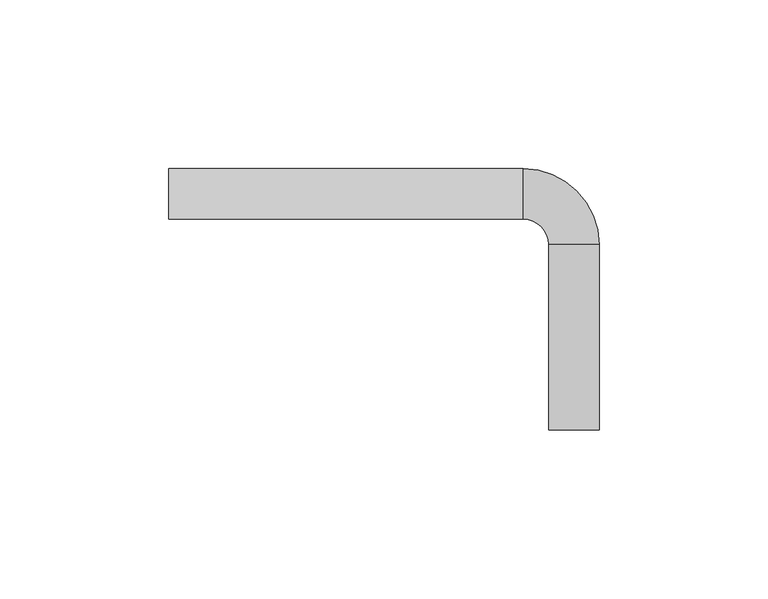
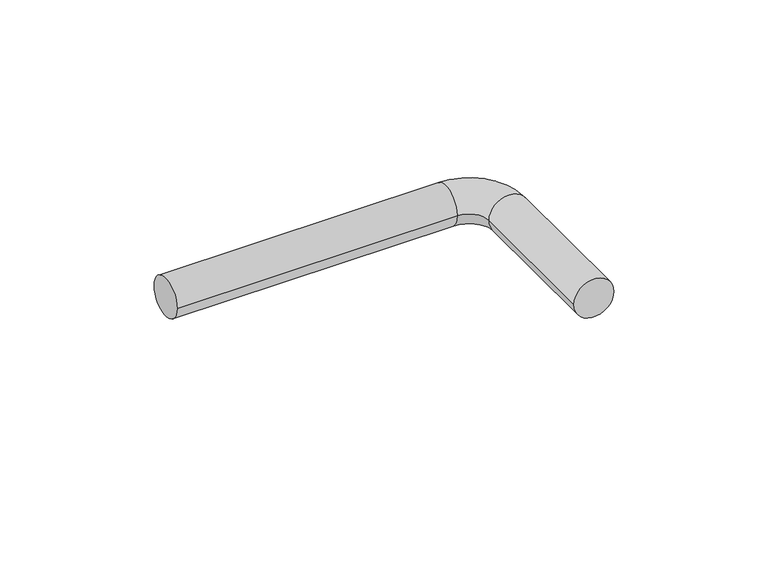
"""IFC4 building model written with IfcOpenShell, lengths in millimetres: pipe fitting geometry, KAN-therm Inox łuk 90 : KAN-therm Inox łuk 90."""

from ifc_helpers import new_model, si_unit, point, frame, origin, place, context, project, spatial, circle_curve, ellipse_curve, trimmed, source, transform, mapped, element, save
from ifc_brep_helpers import plane_surface, cylinder_surface, revolved_surface, advanced_brep


def pipe_fitting_b5278f3b(model_context):
    return source(origin(), model_context, "Body", "AdvancedBrep", [
        advanced_brep(
        [(127.5, -70.0, 0.0), (112.5, -70.0, 0.0), (127.5, -15.0, 0.0), (112.5, -15.0, 0.0), (105.0, -7.5, 0.0), (105.0, 7.5, 0.0), (0.0, 7.5, 0.0), (0.0, -7.5, 0.0)],
        [
            (0, 1, circle_curve(frame((120.0, -70.0, 0.0), z_axis=(0.0, -1.0, 0.0), x_axis=(-1.0, 0.0, 0.0)), 7.5)),
            (1, 0, circle_curve(frame((120.0, -70.0, 0.0), z_axis=(0.0, -1.0, 0.0), x_axis=(-1.0, 0.0, 0.0)), 7.5)),
            (0, 2),
            (2, 3, circle_curve(frame((120.0, -15.0, 0.0), z_axis=(0.0, -1.0, 0.0), x_axis=(-1.0, 0.0, 0.0)), 7.5)),
            (3, 1),
            (3, 2, circle_curve(frame((120.0, -15.0, 0.0), z_axis=(0.0, -1.0, 0.0), x_axis=(-1.0, 0.0, 0.0)), 7.5)),
            (4, 3, circle_curve(frame((105.0, -15.0, 0.0), z_axis=(0.0, 0.0, -1.0), x_axis=(1.0, 0.0, 0.0)), 7.5)),
            (2, 5, circle_curve(frame((105.0, -15.0, 0.0), z_axis=(0.0, 0.0, 1.0), x_axis=(1.0, 0.0, 0.0)), 22.5)),
            (5, 4, circle_curve(frame((105.0, 0.0, 0.0), z_axis=(1.0, 0.0, 0.0), x_axis=(0.0, -1.0, 0.0)), 7.5)),
            (4, 5, circle_curve(frame((105.0, 0.0, 0.0), z_axis=(1.0, 0.0, 0.0), x_axis=(0.0, -1.0, 0.0)), 7.5)),
            (6, 7, circle_curve(frame((0.0, 0.0, 0.0), z_axis=(-1.0, 0.0, 0.0), x_axis=(0.0, -1.0, 0.0)), 7.5)),
            (7, 6, circle_curve(frame((0.0, 0.0, 0.0), z_axis=(-1.0, 0.0, 0.0), x_axis=(0.0, -1.0, 0.0)), 7.5)),
            (5, 6),
            (7, 4),
        ],
        [
            plane_surface(frame((120.0, -70.0, 0.0), z_axis=(0.0, -1.0, 0.0), x_axis=(0.0, 0.0, 1.0))),
            cylinder_surface(frame((120.0, -70.0, 0.0), z_axis=(0.0, -1.0, 0.0), x_axis=(-1.0, 0.0, 0.0)), 7.5),
            revolved_surface(trimmed(ellipse_curve(frame((120.0, -15.0, 0.0), z_axis=(0.0, -1.0, 0.0), x_axis=(-1.0, 0.0, 0.0)), 7.5, 7.5), [point((127.5, -15.0, 0.0))], [point((112.5, -15.0, 0.0))], True, "CARTESIAN"), (105.0, -15.0, 0.0), (0.0, 0.0, 1.0)),
            revolved_surface(trimmed(ellipse_curve(frame((120.0, -15.0, 0.0), z_axis=(0.0, -1.0, 0.0), x_axis=(-1.0, 0.0, 0.0)), 7.5, 7.5), [point((112.5, -15.0, 0.0))], [point((127.5, -15.0, 0.0))], True, "CARTESIAN"), (105.0, -15.0, 0.0), (0.0, 0.0, 1.0)),
            plane_surface(frame((0.0, 0.0, 0.0), z_axis=(-1.0, 0.0, 0.0), x_axis=(0.0, 0.0, 1.0))),
            cylinder_surface(frame((105.0, 0.0, 0.0), z_axis=(1.0, 0.0, 0.0), x_axis=(0.0, -1.0, 0.0)), 7.5),
        ],
        [
            (0, [[1, 2]]),
            (1, [[-1, 3, 4, 5]]),
            (1, [[-2, -5, 6, -3]]),
            (2, [[7, -4, 8, 9]]),
            (3, [[-8, -6, -7, 10]]),
            (4, [[11, 12]]),
            (5, [[-9, 13, -12, 14]]),
            (5, [[-10, -14, -11, -13]]),
        ],
    ),
    ])


if __name__ == "__main__":
    model = new_model("IFC4")
    model_context = context("Model", 3, world=origin())
    ifc_project = project(units=[si_unit("LENGTHUNIT", "METRE", prefix="MILLI")], contexts=[model_context])
    site = spatial("IfcSite", under=ifc_project)
    building = spatial("IfcBuilding", under=site)
    placement = place(None, origin())
    pipe_fitting_shape = pipe_fitting_b5278f3b(model_context)
    element("IfcPipeFitting", 1, ObjectType="KAN-therm Inox łuk 90 : KAN-therm Inox łuk 90", at=placement, inside=building, context=model_context, shape_type="MappedRepresentation", body=[
        mapped(pipe_fitting_shape, transform((0.0, 0.0, 0.0), x_axis=(1.0, 0.0, 0.0), y_axis=(0.0, 1.0, 0.0), z_axis=(0.0, 0.0, 1.0))),
    ])
    save(model, "model.ifc")
